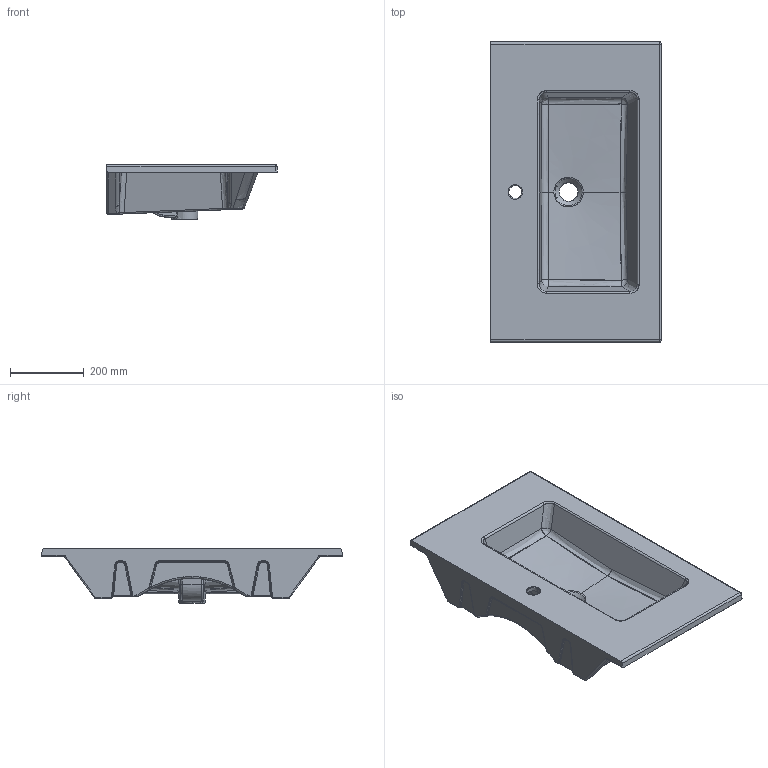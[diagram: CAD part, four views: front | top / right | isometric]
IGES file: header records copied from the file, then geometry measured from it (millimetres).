
Global section: file name: C:\Users\Luca\Documents\CAD GALASSIA\Archivio sito web\7223\3D ART 7223.igs; native system: Rhinoceros ( Sep 13 2016 ); preprocessor: Trout Lake IGES 012 Sep 13 2016; date: 230830.080757; units: millimetre
Bounding box: 460.32 x 813.5 x 147.6 mm (x, y, z)
Surface area: 1161231.6 mm2 (no closed solid volume)
Topology: 0 solids, 0 shells, 453 faces, 2481 edges, 2463 vertices
Faces by surface type: bspline 412, plane 41
